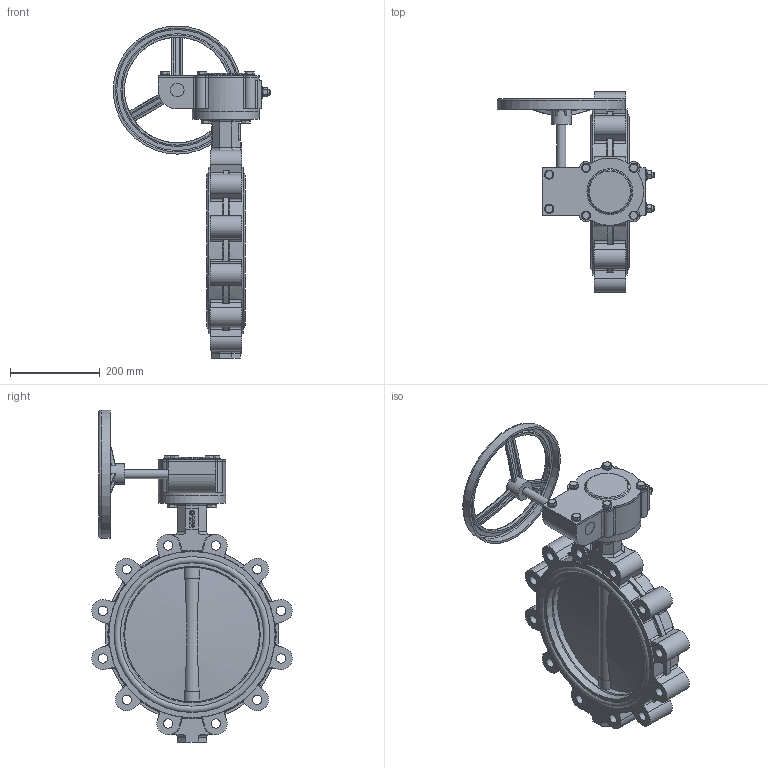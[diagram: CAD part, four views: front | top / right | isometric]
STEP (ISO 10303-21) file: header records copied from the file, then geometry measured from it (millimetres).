
FILE_DESCRIPTION(('STEP AP242'), '1');
FILE_NAME('Ïîâîðîòíûé çàòâîð ïîä ýëåêòðîïðèâîä', '', ('UNSPECIFIED'), ('UNSPECIFIED'), 'C3D Converter', 'C3D Toolkit', '');
FILE_SCHEMA(('AP242_MANAGED_MODEL_BASED_3D_ENGINEERING_MIM_LF { 1 0 10303 442 1 1 4 }'));
Length unit declared in the file: millimetre
Products named in the file (16): П
Assembly tree (36 placements, depth 3):
  (unnamed)
    (unnamed)
    П  x2
    (unnamed)
    (unnamed)
    (unnamed)
    (unnamed)
      (unnamed)
      (unnamed)
      (unnamed)
      (unnamed)
      (unnamed)  x6
      (unnamed)  x6
      (unnamed)  x2
      (unnamed)  x2
      (unnamed)
    (unnamed)  x4
    (unnamed)  x4
Bounding box: 350.5 x 445.84 x 738.5 mm (x, y, z)
Volume: 9291159.9 mm3; surface area: 1344746.7 mm2
Topology: 35 solids, 35 shells, 1101 faces, 2690 edges, 1718 vertices
Faces by surface type: plane 446, cylinder 280, extrusion 173, torus 102, bspline 52, cone 44, sphere 4
Full cylindrical faces by diameter (mm): 6 x2, 10.647 x2, 11.421 x1, 12 x30, 13 x10, 14 x4, 20 x13, 20.752 x12, 27 x5, 29.7 x1, 30 x2, 37.05 x4, 38.184 x5, 45 x1, 150 x2, 235 x1, 245 x1, 275 x1, 285 x1, 300 x1, 303.75 x2, 318.75 x2, 332.708 x4, 346.667 x4, 370 x2
Entity records: 41853 total; most frequent: CARTESIAN_POINT 17188, ORIENTED_EDGE 4444, DIRECTION 3909, EDGE_CURVE 2222, VERTEX_POINT 1495, AXIS2_PLACEMENT_3D 1392, EDGE_LOOP 1153, VECTOR 1125
